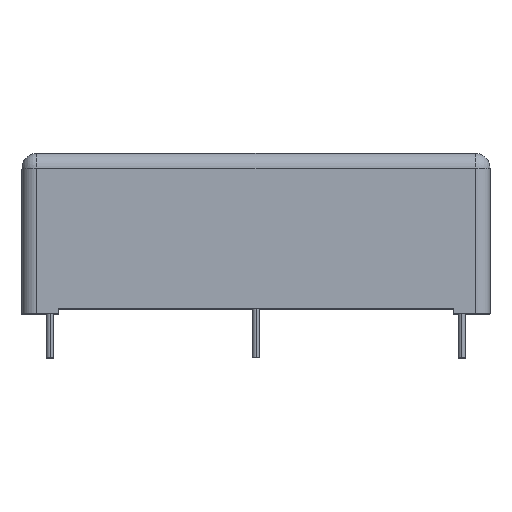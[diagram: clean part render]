
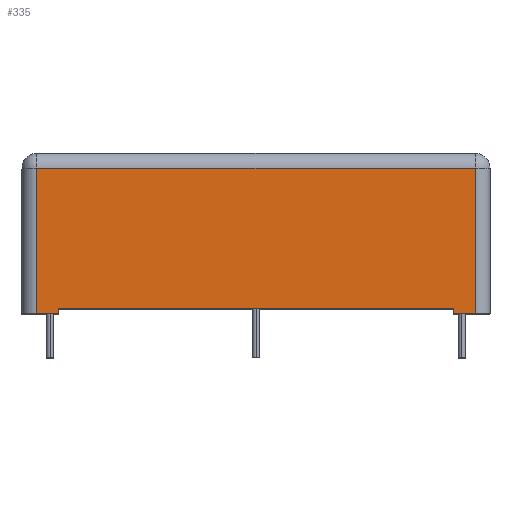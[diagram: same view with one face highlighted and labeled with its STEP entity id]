
A CAD part, top view. The second image highlights one B-rep face of the part: STEP entity #335.
In plain terms, the highlighted planar face has unit normal (0, 0, 1).
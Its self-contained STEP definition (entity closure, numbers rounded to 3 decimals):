
#141 = LINE ( 'NONE', #1126, #4818 ) ;
#263 = EDGE_CURVE ( 'NONE', #3627, #4627, #141, .T. ) ;
#335 = ADVANCED_FACE ( 'NONE', ( #1678 ), #1202, .F. ) ;
#394 = VERTEX_POINT ( 'NONE', #2234 ) ;
#416 = ORIENTED_EDGE ( 'NONE', *, *, #3029, .F. ) ;
#417 = LINE ( 'NONE', #3246, #3200 ) ;
#439 = CARTESIAN_POINT ( 'NONE',  ( 29.75, -0.7, 44.45 ) ) ;
#568 = ORIENTED_EDGE ( 'NONE', *, *, #1891, .T. ) ;
#618 = DIRECTION ( 'NONE',  ( 0., 1., 0. ) ) ;
#646 = LINE ( 'NONE', #5555, #2546 ) ;
#706 = EDGE_CURVE ( 'NONE', #5529, #4395, #4013, .T. ) ;
#971 = CARTESIAN_POINT ( 'NONE',  ( -31.75, 0., 44.45 ) ) ;
#1007 = ORIENTED_EDGE ( 'NONE', *, *, #4022, .T. ) ;
#1107 = EDGE_CURVE ( 'NONE', #1874, #394, #4551, .T. ) ;
#1125 = DIRECTION ( 'NONE',  ( -1., 0., 0. ) ) ;
#1126 = CARTESIAN_POINT ( 'NONE',  ( -26.75, -0.7, 44.45 ) ) ;
#1176 = CARTESIAN_POINT ( 'NONE',  ( -31.75, 21., 44.45 ) ) ;
#1202 = PLANE ( 'NONE',  #4337 ) ;
#1521 = CARTESIAN_POINT ( 'NONE',  ( 26.75, -0.7, 44.45 ) ) ;
#1595 = VECTOR ( 'NONE', #3182, 1000. ) ;
#1678 = FACE_OUTER_BOUND ( 'NONE', #5849, .T. ) ;
#1874 = VERTEX_POINT ( 'NONE', #4807 ) ;
#1891 = EDGE_CURVE ( 'NONE', #5529, #2673, #4266, .T. ) ;
#2234 = CARTESIAN_POINT ( 'NONE',  ( -29.75, -0.7, 44.45 ) ) ;
#2546 = VECTOR ( 'NONE', #1125, 1000. ) ;
#2564 = VECTOR ( 'NONE', #3195, 1000. ) ;
#2673 = VERTEX_POINT ( 'NONE', #5062 ) ;
#2920 = VECTOR ( 'NONE', #3105, 1000. ) ;
#2928 = CARTESIAN_POINT ( 'NONE',  ( -26.75, -0.7, 44.45 ) ) ;
#2947 = DIRECTION ( 'NONE',  ( 0., 1., 0. ) ) ;
#2963 = ORIENTED_EDGE ( 'NONE', *, *, #263, .T. ) ;
#3022 = DIRECTION ( 'NONE',  ( 0., 0., -1. ) ) ;
#3029 = EDGE_CURVE ( 'NONE', #3627, #394, #646, .T. ) ;
#3105 = DIRECTION ( 'NONE',  ( -1., 0., 0. ) ) ;
#3182 = DIRECTION ( 'NONE',  ( -1., 0., 0. ) ) ;
#3195 = DIRECTION ( 'NONE',  ( 0., -1., 0. ) ) ;
#3200 = VECTOR ( 'NONE', #5125, 1000. ) ;
#3246 = CARTESIAN_POINT ( 'NONE',  ( 26.75, -0.7, 44.45 ) ) ;
#3255 = ORIENTED_EDGE ( 'NONE', *, *, #1107, .T. ) ;
#3477 = CARTESIAN_POINT ( 'NONE',  ( 29.75, 21., 44.45 ) ) ;
#3530 = CARTESIAN_POINT ( 'NONE',  ( 29.75, -0.7, 44.45 ) ) ;
#3627 = VERTEX_POINT ( 'NONE', #2928 ) ;
#3650 = ORIENTED_EDGE ( 'NONE', *, *, #5194, .T. ) ;
#3761 = VERTEX_POINT ( 'NONE', #5092 ) ;
#4013 = LINE ( 'NONE', #3530, #2920 ) ;
#4022 = EDGE_CURVE ( 'NONE', #4627, #3761, #4687, .T. ) ;
#4090 = LINE ( 'NONE', #5475, #1595 ) ;
#4107 = DIRECTION ( 'NONE',  ( 1., 0., 0. ) ) ;
#4266 = LINE ( 'NONE', #3477, #5888 ) ;
#4337 = AXIS2_PLACEMENT_3D ( 'NONE', #1176, #3022, #4888 ) ;
#4388 = ORIENTED_EDGE ( 'NONE', *, *, #706, .F. ) ;
#4395 = VERTEX_POINT ( 'NONE', #1521 ) ;
#4414 = VECTOR ( 'NONE', #4107, 1000. ) ;
#4551 = LINE ( 'NONE', #5904, #2564 ) ;
#4627 = VERTEX_POINT ( 'NONE', #5848 ) ;
#4687 = LINE ( 'NONE', #971, #4414 ) ;
#4807 = CARTESIAN_POINT ( 'NONE',  ( -29.75, 19., 44.45 ) ) ;
#4818 = VECTOR ( 'NONE', #2947, 1000. ) ;
#4888 = DIRECTION ( 'NONE',  ( -1., 0., 0. ) ) ;
#5034 = EDGE_CURVE ( 'NONE', #4395, #3761, #417, .T. ) ;
#5062 = CARTESIAN_POINT ( 'NONE',  ( 29.75, 19., 44.45 ) ) ;
#5092 = CARTESIAN_POINT ( 'NONE',  ( 26.75, 0., 44.45 ) ) ;
#5117 = ORIENTED_EDGE ( 'NONE', *, *, #5034, .F. ) ;
#5125 = DIRECTION ( 'NONE',  ( 0., 1., 0. ) ) ;
#5194 = EDGE_CURVE ( 'NONE', #2673, #1874, #4090, .T. ) ;
#5475 = CARTESIAN_POINT ( 'NONE',  ( -29.75, 19., 44.45 ) ) ;
#5529 = VERTEX_POINT ( 'NONE', #439 ) ;
#5555 = CARTESIAN_POINT ( 'NONE',  ( -26.75, -0.7, 44.45 ) ) ;
#5848 = CARTESIAN_POINT ( 'NONE',  ( -26.75, 0., 44.45 ) ) ;
#5849 = EDGE_LOOP ( 'NONE', ( #568, #3650, #3255, #416, #2963, #1007, #5117, #4388 ) ) ;
#5888 = VECTOR ( 'NONE', #618, 1000. ) ;
#5904 = CARTESIAN_POINT ( 'NONE',  ( -29.75, 21., 44.45 ) ) ;
